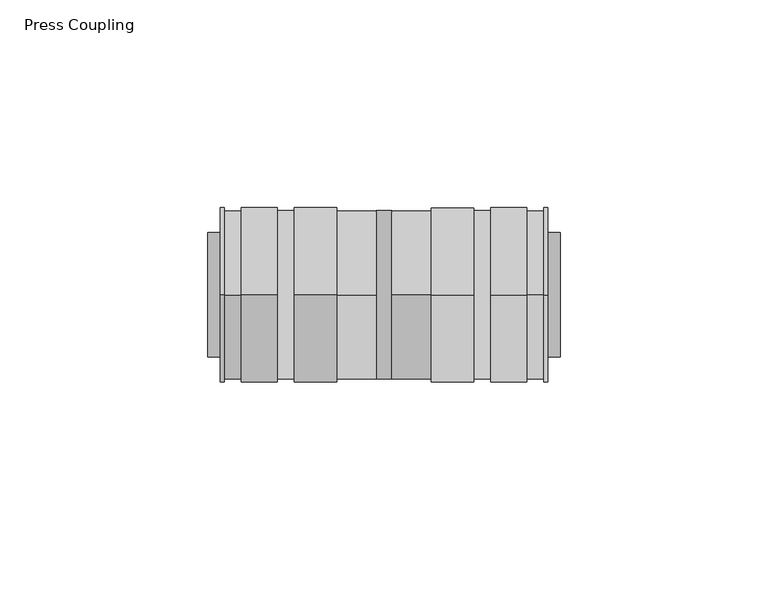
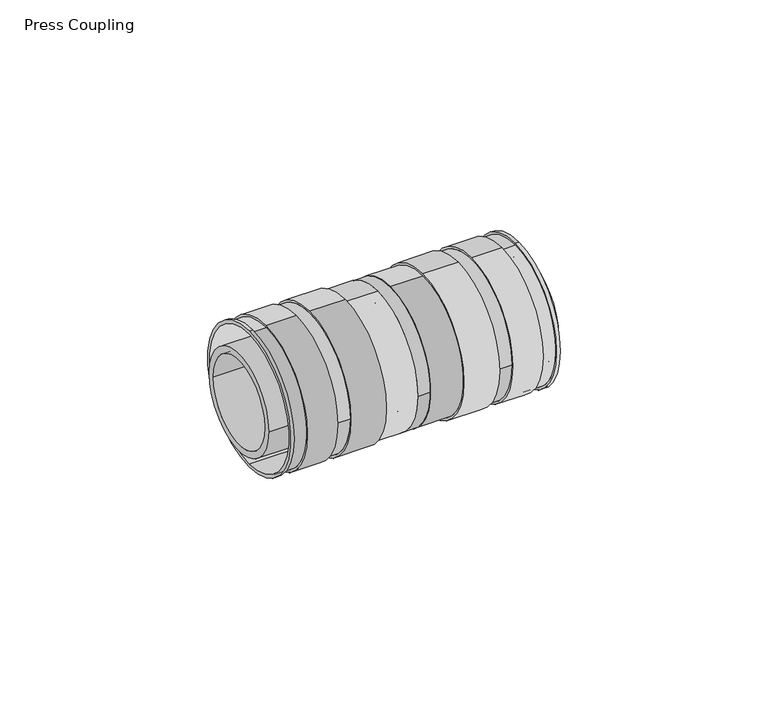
"""IFC4 building model written with IfcOpenShell, lengths in millimetres: pipe fitting geometry, Press Coupling : Superpipe Press Coupling."""

from ifc_helpers import new_model, si_unit, point, frame, frame_2d, origin, place, context, project, spatial, polyline, circle_curve, trimmed, segment, composite_curve, outline, extrude, source, transform, mapped, element, save
from ifc_brep_helpers import plane_surface, cylinder_surface, revolved_surface, advanced_brep


def press_coupling_af6aac93(model_context):
    return source(origin(), model_context, "Body", "SolidModel", [
        advanced_brep(
        [(81.8, 0.0, -21.0), (81.8, 0.0, 21.0), (81.8, 0.0, -20.0), (81.8, 0.0, 20.0), (44.3, 0.0, -20.3), (44.3, 0.0, 20.3), (44.3, 0.0, -20.0), (44.3, 0.0, 20.0), (80.8, 0.0, -21.0), (80.8, 0.0, 21.0), (76.8, 0.0, 21.0), (76.8, 0.0, -21.0), (68.05, 0.0, -21.0), (68.05, 21.0, 0.0), (68.05, 0.0, 21.0), (64.05, 21.0, 0.0), (64.05, 0.0, -21.0), (53.8, 0.0, -21.0), (53.8, 0.0, 21.0), (64.05, 0.0, 21.0), (68.05, -21.0, 0.0), (64.05, -21.0, 0.0), (76.8, 0.0, 20.3), (76.8, 0.0, -20.3), (80.8, 0.0, 20.3), (80.8, 0.0, -20.3), (68.05, 20.3, 0.0), (68.05, -20.3, 0.0), (64.05, 20.3, 0.0), (64.05, -20.3, 0.0), (53.8, 0.0, -20.3), (53.8, 0.0, 20.3)],
        [
            (0, 1, circle_curve(frame((81.8, 0.0, 0.0), z_axis=(1.0, 0.0, 0.0), x_axis=(0.0, 0.0, 1.0)), 21.0)),
            (1, 0, circle_curve(frame((81.8, 0.0, 0.0), z_axis=(1.0, 0.0, 0.0), x_axis=(0.0, 0.0, 1.0)), 21.0)),
            (2, 3, circle_curve(frame((81.8, 0.0, 0.0), z_axis=(-1.0, 0.0, 0.0), x_axis=(0.0, 0.0, 1.0)), 20.0)),
            (3, 2, circle_curve(frame((81.8, 0.0, 0.0), z_axis=(-1.0, 0.0, 0.0), x_axis=(0.0, 0.0, 1.0)), 20.0)),
            (4, 5, circle_curve(frame((44.3, 0.0, 0.0), z_axis=(-1.0, 0.0, 0.0), x_axis=(0.0, 0.0, 1.0)), 20.3)),
            (5, 4, circle_curve(frame((44.3, 0.0, 0.0), z_axis=(-1.0, 0.0, 0.0), x_axis=(0.0, 0.0, 1.0)), 20.3)),
            (6, 7, circle_curve(frame((44.3, 0.0, 0.0), z_axis=(1.0, 0.0, 0.0), x_axis=(0.0, 0.0, 1.0)), 20.0)),
            (7, 6, circle_curve(frame((44.3, 0.0, 0.0), z_axis=(1.0, 0.0, 0.0), x_axis=(0.0, 0.0, 1.0)), 20.0)),
            (0, 8),
            (8, 9, circle_curve(frame((80.8, 0.0, 0.0), z_axis=(1.0, 0.0, 0.0), x_axis=(0.0, 0.0, 1.0)), 21.0)),
            (9, 1),
            (10, 11, circle_curve(frame((76.8, 0.0, 0.0), z_axis=(-1.0, 0.0, 0.0), x_axis=(0.0, 0.0, 1.0)), 21.0)),
            (11, 12),
            (12, 13, circle_curve(frame((68.05, 0.0, 0.0), z_axis=(1.0, 0.0, 0.0), x_axis=(0.0, 0.0, 1.0)), 21.0)),
            (13, 14, circle_curve(frame((68.05, 0.0, 0.0), z_axis=(1.0, 0.0, 0.0), x_axis=(0.0, 0.0, 1.0)), 21.0)),
            (14, 10),
            (15, 16, circle_curve(frame((64.05, 0.0, 0.0), z_axis=(-1.0, 0.0, 0.0), x_axis=(0.0, 0.0, 1.0)), 21.0)),
            (16, 17),
            (17, 18, circle_curve(frame((53.8, 0.0, 0.0), z_axis=(1.0, 0.0, 0.0), x_axis=(0.0, 0.0, 1.0)), 21.0)),
            (18, 19),
            (19, 15, circle_curve(frame((64.05, 0.0, 0.0), z_axis=(-1.0, 0.0, 0.0), x_axis=(0.0, 0.0, 1.0)), 21.0)),
            (9, 8, circle_curve(frame((80.8, 0.0, 0.0), z_axis=(1.0, 0.0, 0.0), x_axis=(0.0, 0.0, 1.0)), 21.0)),
            (11, 10, circle_curve(frame((76.8, 0.0, 0.0), z_axis=(-1.0, 0.0, 0.0), x_axis=(0.0, 0.0, 1.0)), 21.0)),
            (14, 20, circle_curve(frame((68.05, 0.0, 0.0), z_axis=(1.0, 0.0, 0.0), x_axis=(0.0, 0.0, 1.0)), 21.0)),
            (20, 12, circle_curve(frame((68.05, 0.0, 0.0), z_axis=(1.0, 0.0, 0.0), x_axis=(0.0, 0.0, 1.0)), 21.0)),
            (16, 21, circle_curve(frame((64.05, 0.0, 0.0), z_axis=(-1.0, 0.0, 0.0), x_axis=(0.0, 0.0, 1.0)), 21.0)),
            (21, 19, circle_curve(frame((64.05, 0.0, 0.0), z_axis=(-1.0, 0.0, 0.0), x_axis=(0.0, 0.0, 1.0)), 21.0)),
            (18, 17, circle_curve(frame((53.8, 0.0, 0.0), z_axis=(1.0, 0.0, 0.0), x_axis=(0.0, 0.0, 1.0)), 21.0)),
            (2, 6),
            (7, 3),
            (22, 23, circle_curve(frame((76.8, 0.0, 0.0), z_axis=(-1.0, 0.0, 0.0), x_axis=(0.0, 0.0, -1.0)), 20.3)),
            (23, 22, circle_curve(frame((76.8, 0.0, 0.0), z_axis=(-1.0, 0.0, 0.0), x_axis=(0.0, 0.0, -1.0)), 20.3)),
            (24, 25, circle_curve(frame((80.8, 0.0, 0.0), z_axis=(1.0, 0.0, 0.0), x_axis=(0.0, 0.0, -1.0)), 20.3)),
            (25, 24, circle_curve(frame((80.8, 0.0, 0.0), z_axis=(1.0, 0.0, 0.0), x_axis=(0.0, 0.0, -1.0)), 20.3)),
            (23, 25),
            (24, 22),
            (26, 27, circle_curve(frame((68.05, 0.0, 0.0), z_axis=(1.0, 0.0, 0.0), x_axis=(0.0, -1.0, 0.0)), 20.3)),
            (27, 26, circle_curve(frame((68.05, 0.0, 0.0), z_axis=(1.0, 0.0, 0.0), x_axis=(0.0, -1.0, 0.0)), 20.3)),
            (28, 29, circle_curve(frame((64.05, 0.0, 0.0), z_axis=(-1.0, 0.0, 0.0), x_axis=(0.0, -1.0, 0.0)), 20.3)),
            (29, 28, circle_curve(frame((64.05, 0.0, 0.0), z_axis=(-1.0, 0.0, 0.0), x_axis=(0.0, -1.0, 0.0)), 20.3)),
            (26, 28),
            (29, 27),
            (30, 31, circle_curve(frame((53.8, 0.0, 0.0), z_axis=(1.0, 0.0, 0.0), x_axis=(0.0, 0.0, 1.0)), 20.3)),
            (31, 30, circle_curve(frame((53.8, 0.0, 0.0), z_axis=(1.0, 0.0, 0.0), x_axis=(0.0, 0.0, 1.0)), 20.3)),
            (31, 5),
            (4, 30),
        ],
        [
            plane_surface(frame((81.8, 0.0, 21.0), z_axis=(1.0, 0.0, 0.0), x_axis=(0.0, -1.0, 0.0))),
            plane_surface(frame((44.3, 0.0, 21.0), z_axis=(-1.0, 0.0, 0.0), x_axis=(0.0, 1.0, 0.0))),
            cylinder_surface(frame((44.3, 0.0, 0.0), z_axis=(1.0, 0.0, 0.0), x_axis=(0.0, 0.0, 1.0)), 21.0),
            revolved_surface(polyline([(44.3, 0.0, 20.0), (81.8, 0.0, 20.0)]), (44.3, 0.0, 0.0), (-1.0, 0.0, 0.0)),
            plane_surface(frame((76.8, 0.0, -21.0), z_axis=(1.0, 0.0, 0.0), x_axis=(0.0, -1.0, 0.0))),
            plane_surface(frame((80.8, 0.0, -21.0), z_axis=(-1.0, 0.0, 0.0), x_axis=(0.0, 1.0, 0.0))),
            cylinder_surface(frame((81.8, 0.0, 0.0), z_axis=(1.0, 0.0, 0.0), x_axis=(0.0, 0.0, -1.0)), 20.3),
            plane_surface(frame((68.05, -21.0, 0.0), z_axis=(-1.0, 0.0, 0.0), x_axis=(0.0, 0.0, -1.0))),
            plane_surface(frame((64.05, -21.0, 0.0), z_axis=(1.0, 0.0, 0.0), x_axis=(0.0, 0.0, 1.0))),
            cylinder_surface(frame((64.05, 0.0, 0.0), z_axis=(1.0, 0.0, 0.0), x_axis=(0.0, -1.0, 0.0)), 20.3),
            plane_surface(frame((53.8, 0.0, 21.0), z_axis=(-1.0, 0.0, 0.0), x_axis=(0.0, -1.0, 0.0))),
            cylinder_surface(frame((44.3, 0.0, 0.0), z_axis=(-1.0, 0.0, 0.0), x_axis=(0.0, 0.0, 1.0)), 20.3),
        ],
        [
            (0, [[1, 2], [3, 4]]),
            (1, [[5, 6], [7, 8]]),
            (2, [[-1, 9, 10, 11]]),
            (2, [[12, 13, 14, 15, 16]]),
            (2, [[17, 18, 19, 20, 21]]),
            (2, [[-2, -11, 22, -9]]),
            (2, [[23, -16, 24, 25, -13]]),
            (2, [[26, 27, -20, 28, -18]]),
            (3, [[-3, 29, -8, 30]]),
            (3, [[-4, -30, -7, -29]]),
            (4, [[-12, -23], [31, 32]]),
            (5, [[-10, -22], [33, 34]]),
            (6, [[-32, 35, -33, 36]]),
            (6, [[-31, -36, -34, -35]]),
            (7, [[-14, -25, -24, -15], [37, 38]]),
            (8, [[-17, -21, -27, -26], [39, 40]]),
            (9, [[-37, 41, -40, 42]]),
            (9, [[-38, -42, -39, -41]]),
            (10, [[-19, -28], [43, 44]]),
            (11, [[-44, 45, -5, 46]]),
            (11, [[-43, -46, -6, -45]]),
        ],
    ),
        advanced_brep(
        [(3.0, 0.0, -21.0), (3.0, 0.0, 21.0), (3.0, 0.0, -20.0), (3.0, 0.0, 20.0), (40.5, 0.0, -20.3), (40.5, 0.0, 20.3), (40.5, 0.0, -20.0), (40.5, 0.0, 20.0), (4.0, 0.0, -21.0), (4.0, 0.0, 21.0), (8.0, 0.0, 21.0), (8.0, 0.0, -21.0), (16.75, 0.0, -21.0), (16.75, -21.0, 0.0), (16.75, 0.0, 21.0), (31.0, 0.0, -21.0), (31.0, 0.0, 21.0), (20.75, 0.0, 21.0), (20.75, -21.0, 0.0), (20.75, 0.0, -21.0), (16.75, 21.0, 0.0), (20.75, 21.0, 0.0), (8.0, 0.0, 20.3), (8.0, 0.0, -20.3), (4.0, 0.0, 20.3), (4.0, 0.0, -20.3), (31.0, 0.0, -20.3), (31.0, 0.0, 20.3), (16.75, 20.3, 0.0), (16.75, -20.3, 0.0), (20.75, 20.3, 0.0), (20.75, -20.3, 0.0)],
        [
            (0, 1, circle_curve(frame((3.0, 0.0, 0.0), z_axis=(-1.0, 0.0, 0.0), x_axis=(0.0, 0.0, 1.0)), 21.0)),
            (1, 0, circle_curve(frame((3.0, 0.0, 0.0), z_axis=(-1.0, 0.0, 0.0), x_axis=(0.0, 0.0, 1.0)), 21.0)),
            (2, 3, circle_curve(frame((3.0, 0.0, 0.0), z_axis=(1.0, 0.0, 0.0), x_axis=(0.0, 0.0, 1.0)), 20.0)),
            (3, 2, circle_curve(frame((3.0, 0.0, 0.0), z_axis=(1.0, 0.0, 0.0), x_axis=(0.0, 0.0, 1.0)), 20.0)),
            (4, 5, circle_curve(frame((40.5, 0.0, 0.0), z_axis=(1.0, 0.0, 0.0), x_axis=(0.0, 0.0, 1.0)), 20.3)),
            (5, 4, circle_curve(frame((40.5, 0.0, 0.0), z_axis=(1.0, 0.0, 0.0), x_axis=(0.0, 0.0, 1.0)), 20.3)),
            (6, 7, circle_curve(frame((40.5, 0.0, 0.0), z_axis=(-1.0, 0.0, 0.0), x_axis=(0.0, 0.0, 1.0)), 20.0)),
            (7, 6, circle_curve(frame((40.5, 0.0, 0.0), z_axis=(-1.0, 0.0, 0.0), x_axis=(0.0, 0.0, 1.0)), 20.0)),
            (0, 8),
            (8, 9, circle_curve(frame((4.0, 0.0, 0.0), z_axis=(-1.0, 0.0, 0.0), x_axis=(0.0, 0.0, 1.0)), 21.0)),
            (9, 1),
            (10, 11, circle_curve(frame((8.0, 0.0, 0.0), z_axis=(1.0, 0.0, 0.0), x_axis=(0.0, 0.0, 1.0)), 21.0)),
            (11, 12),
            (12, 13, circle_curve(frame((16.75, 0.0, 0.0), z_axis=(-1.0, 0.0, 0.0), x_axis=(0.0, 0.0, 1.0)), 21.0)),
            (13, 14, circle_curve(frame((16.75, 0.0, 0.0), z_axis=(-1.0, 0.0, 0.0), x_axis=(0.0, 0.0, 1.0)), 21.0)),
            (14, 10),
            (15, 16, circle_curve(frame((31.0, 0.0, 0.0), z_axis=(-1.0, 0.0, 0.0), x_axis=(0.0, 0.0, 1.0)), 21.0)),
            (16, 17),
            (17, 18, circle_curve(frame((20.75, 0.0, 0.0), z_axis=(1.0, 0.0, 0.0), x_axis=(0.0, 0.0, 1.0)), 21.0)),
            (18, 19, circle_curve(frame((20.75, 0.0, 0.0), z_axis=(1.0, 0.0, 0.0), x_axis=(0.0, 0.0, 1.0)), 21.0)),
            (19, 15),
            (9, 8, circle_curve(frame((4.0, 0.0, 0.0), z_axis=(-1.0, 0.0, 0.0), x_axis=(0.0, 0.0, 1.0)), 21.0)),
            (11, 10, circle_curve(frame((8.0, 0.0, 0.0), z_axis=(1.0, 0.0, 0.0), x_axis=(0.0, 0.0, 1.0)), 21.0)),
            (14, 20, circle_curve(frame((16.75, 0.0, 0.0), z_axis=(-1.0, 0.0, 0.0), x_axis=(0.0, 0.0, 1.0)), 21.0)),
            (20, 12, circle_curve(frame((16.75, 0.0, 0.0), z_axis=(-1.0, 0.0, 0.0), x_axis=(0.0, 0.0, 1.0)), 21.0)),
            (16, 15, circle_curve(frame((31.0, 0.0, 0.0), z_axis=(-1.0, 0.0, 0.0), x_axis=(0.0, 0.0, 1.0)), 21.0)),
            (19, 21, circle_curve(frame((20.75, 0.0, 0.0), z_axis=(1.0, 0.0, 0.0), x_axis=(0.0, 0.0, 1.0)), 21.0)),
            (21, 17, circle_curve(frame((20.75, 0.0, 0.0), z_axis=(1.0, 0.0, 0.0), x_axis=(0.0, 0.0, 1.0)), 21.0)),
            (2, 6),
            (7, 3),
            (22, 23, circle_curve(frame((8.0, 0.0, 0.0), z_axis=(1.0, 0.0, 0.0), x_axis=(0.0, 0.0, -1.0)), 20.3)),
            (23, 22, circle_curve(frame((8.0, 0.0, 0.0), z_axis=(1.0, 0.0, 0.0), x_axis=(0.0, 0.0, -1.0)), 20.3)),
            (24, 25, circle_curve(frame((4.0, 0.0, 0.0), z_axis=(-1.0, 0.0, 0.0), x_axis=(0.0, 0.0, -1.0)), 20.3)),
            (25, 24, circle_curve(frame((4.0, 0.0, 0.0), z_axis=(-1.0, 0.0, 0.0), x_axis=(0.0, 0.0, -1.0)), 20.3)),
            (23, 25),
            (24, 22),
            (26, 27, circle_curve(frame((31.0, 0.0, 0.0), z_axis=(-1.0, 0.0, 0.0), x_axis=(0.0, 0.0, 1.0)), 20.3)),
            (27, 26, circle_curve(frame((31.0, 0.0, 0.0), z_axis=(-1.0, 0.0, 0.0), x_axis=(0.0, 0.0, 1.0)), 20.3)),
            (27, 5),
            (4, 26),
            (28, 29, circle_curve(frame((16.75, 0.0, 0.0), z_axis=(-1.0, 0.0, 0.0), x_axis=(0.0, -1.0, 0.0)), 20.3)),
            (29, 28, circle_curve(frame((16.75, 0.0, 0.0), z_axis=(-1.0, 0.0, 0.0), x_axis=(0.0, -1.0, 0.0)), 20.3)),
            (30, 31, circle_curve(frame((20.75, 0.0, 0.0), z_axis=(1.0, 0.0, 0.0), x_axis=(0.0, -1.0, 0.0)), 20.3)),
            (31, 30, circle_curve(frame((20.75, 0.0, 0.0), z_axis=(1.0, 0.0, 0.0), x_axis=(0.0, -1.0, 0.0)), 20.3)),
            (29, 31),
            (30, 28),
        ],
        [
            plane_surface(frame((3.0, 0.0, 21.0), z_axis=(-1.0, 0.0, 0.0), x_axis=(0.0, 1.0, 0.0))),
            plane_surface(frame((40.5, 0.0, 21.0), z_axis=(1.0, 0.0, 0.0), x_axis=(0.0, -1.0, 0.0))),
            cylinder_surface(frame((40.5, 0.0, 0.0), z_axis=(-1.0, 0.0, 0.0), x_axis=(0.0, 0.0, 1.0)), 21.0),
            revolved_surface(polyline([(40.5, 0.0, 20.0), (3.0, 0.0, 20.0)]), (40.5, 0.0, 0.0), (1.0, 0.0, 0.0)),
            plane_surface(frame((8.0, 0.0, -21.0), z_axis=(-1.0, 0.0, 0.0), x_axis=(0.0, 1.0, 0.0))),
            plane_surface(frame((4.0, 0.0, -21.0), z_axis=(1.0, 0.0, 0.0), x_axis=(0.0, -1.0, 0.0))),
            cylinder_surface(frame((3.0, 0.0, 0.0), z_axis=(-1.0, 0.0, 0.0), x_axis=(0.0, 0.0, -1.0)), 20.3),
            plane_surface(frame((31.0, 0.0, 21.0), z_axis=(1.0, 0.0, 0.0), x_axis=(0.0, 1.0, 0.0))),
            cylinder_surface(frame((40.5, 0.0, 0.0), z_axis=(1.0, 0.0, 0.0), x_axis=(0.0, 0.0, 1.0)), 20.3),
            plane_surface(frame((16.75, -21.0, 0.0), z_axis=(1.0, 0.0, 0.0), x_axis=(0.0, 0.0, 1.0))),
            plane_surface(frame((20.75, -21.0, 0.0), z_axis=(-1.0, 0.0, 0.0), x_axis=(0.0, 0.0, -1.0))),
            cylinder_surface(frame((20.75, 0.0, 0.0), z_axis=(1.0, 0.0, 0.0), x_axis=(0.0, -1.0, 0.0)), 20.3),
        ],
        [
            (0, [[1, 2], [3, 4]]),
            (1, [[5, 6], [7, 8]]),
            (2, [[-1, 9, 10, 11]]),
            (2, [[12, 13, 14, 15, 16]]),
            (2, [[17, 18, 19, 20, 21]]),
            (2, [[-2, -11, 22, -9]]),
            (2, [[23, -16, 24, 25, -13]]),
            (2, [[26, -21, 27, 28, -18]]),
            (3, [[-3, 29, -8, 30]]),
            (3, [[-4, -30, -7, -29]]),
            (4, [[-12, -23], [31, 32]]),
            (5, [[-10, -22], [33, 34]]),
            (6, [[-32, 35, -33, 36]]),
            (6, [[-31, -36, -34, -35]]),
            (7, [[-17, -26], [37, 38]]),
            (8, [[-38, 39, -5, 40]]),
            (8, [[-37, -40, -6, -39]]),
            (9, [[-14, -25, -24, -15], [41, 42]]),
            (10, [[-20, -19, -28, -27], [43, 44]]),
            (11, [[-42, 45, -43, 46]]),
            (11, [[-41, -46, -44, -45]]),
        ],
    ),
        extrude(outline(composite_curve([segment(trimmed(circle_curve(frame_2d((-0.000673, 0.0)), 15.0), [point((-15.000673, 0.0))], [point((14.999327, 0.0))], False, "CARTESIAN"), True, "CONTINUOUS"), segment(trimmed(circle_curve(frame_2d((-0.000673, 0.0)), 15.0), [point((14.999327, 0.0))], [point((-15.000673, 0.0))], False, "CARTESIAN"), True, "CONTINUOUS")], self_intersect=False), holes=[composite_curve([segment(trimmed(circle_curve(frame_2d((-0.000673, 0.0)), 13.0), [point((12.999327, 0.0))], [point((-13.000673, 0.0))], True, "CARTESIAN"), True, "CONTINUOUS"), segment(trimmed(circle_curve(frame_2d((-0.000673, 0.0)), 13.0), [point((-13.000673, 0.0))], [point((12.999327, 0.0))], True, "CARTESIAN"), True, "CONTINUOUS")], self_intersect=False)]), frame((44.3, 0.0, 0.0), z_axis=(1.0, 0.0, 0.0), x_axis=(0.0, 1.0, 0.0)), (0.0, 0.0, 1.0), 40.5),
        extrude(outline(composite_curve([segment(trimmed(circle_curve(frame_2d((-0.000673, 0.0)), 15.0), [point((-15.000673, 0.0))], [point((14.999327, 0.0))], False, "CARTESIAN"), True, "CONTINUOUS"), segment(trimmed(circle_curve(frame_2d((-0.000673, 0.0)), 15.0), [point((14.999327, 0.0))], [point((-15.000673, 0.0))], False, "CARTESIAN"), True, "CONTINUOUS")], self_intersect=False), holes=[composite_curve([segment(trimmed(circle_curve(frame_2d((-0.000673, 0.0)), 13.0), [point((12.999327, 0.0))], [point((-13.000673, 0.0))], True, "CARTESIAN"), True, "CONTINUOUS"), segment(trimmed(circle_curve(frame_2d((-0.000673, 0.0)), 13.0), [point((-13.000673, 0.0))], [point((12.999327, 0.0))], True, "CARTESIAN"), True, "CONTINUOUS")], self_intersect=False)]), frame((0.0, 0.0, 0.0), z_axis=(1.0, 0.0, 0.0), x_axis=(0.0, 1.0, 0.0)), (0.0, 0.0, 1.0), 40.5),
        extrude(outline(composite_curve([segment(trimmed(circle_curve(frame_2d((-0.000673, 0.0)), 20.3), [point((-20.300673, 0.0))], [point((20.299327, 0.0))], False, "CARTESIAN"), True, "CONTINUOUS"), segment(trimmed(circle_curve(frame_2d((-0.000673, 0.0)), 20.3), [point((20.299327, 0.0))], [point((-20.300673, 0.0))], False, "CARTESIAN"), True, "CONTINUOUS")], self_intersect=False), holes=[composite_curve([segment(trimmed(circle_curve(frame_2d((-0.000673, 0.0)), 13.0), [point((12.999327, 0.0))], [point((-13.000673, 0.0))], True, "CARTESIAN"), True, "CONTINUOUS"), segment(trimmed(circle_curve(frame_2d((-0.000673, 0.0)), 13.0), [point((-13.000673, 0.0))], [point((12.999327, 0.0))], True, "CARTESIAN"), True, "CONTINUOUS")], self_intersect=False)]), frame((40.5, 0.0, 0.0), z_axis=(1.0, 0.0, 0.0), x_axis=(0.0, 1.0, 0.0)), (0.0, 0.0, 1.0), 3.8),
    ])


if __name__ == "__main__":
    model = new_model("IFC4")
    model_context = context("Model", 3, world=origin())
    ifc_project = project(units=[si_unit("LENGTHUNIT", "METRE", prefix="MILLI")], contexts=[model_context])
    site = spatial("IfcSite", under=ifc_project)
    building = spatial("IfcBuilding", under=site)
    placement = place(None, origin())
    press_coupling_shape = press_coupling_af6aac93(model_context)
    element("IfcPipeFitting", 1, ObjectType="Press Coupling : Superpipe Press Coupling", at=placement, inside=building, context=model_context, shape_type="MappedRepresentation", body=[
        mapped(press_coupling_shape, transform((0.0, 0.0, 0.0), x_axis=(1.0, 0.0, 0.0), y_axis=(0.0, 1.0, 0.0), z_axis=(0.0, 0.0, 1.0))),
    ])
    save(model, "model.ifc")
